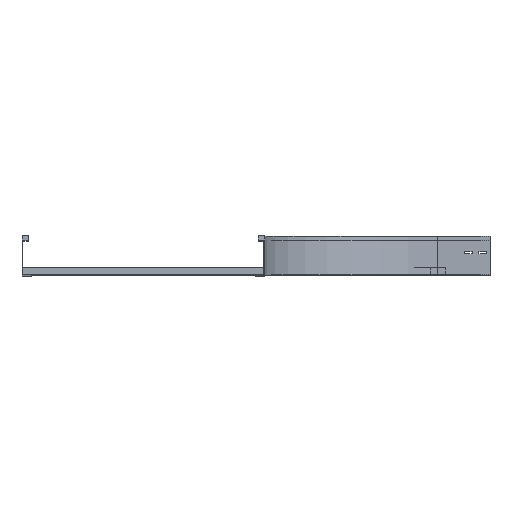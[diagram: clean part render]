
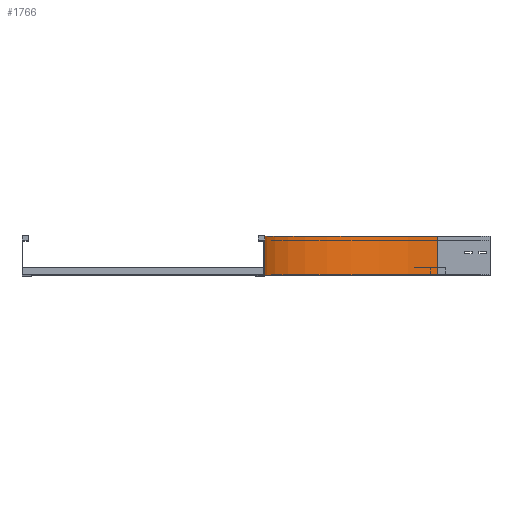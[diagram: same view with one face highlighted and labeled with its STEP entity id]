
A CAD part, top view. The second image highlights one B-rep face of the part: STEP entity #1766.
In plain terms, the highlighted cylindrical face has radius 500 mm (diameter 1000 mm), a partial arc.
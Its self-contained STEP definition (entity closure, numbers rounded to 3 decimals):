
#125 = EDGE_CURVE ( 'NONE', #2047, #2570, #2557, .T. ) ;
#154 = CARTESIAN_POINT ( 'NONE',  ( 500., 0., -650. ) ) ;
#165 = DIRECTION ( 'NONE',  ( -1., 0., 0. ) ) ;
#173 = DIRECTION ( 'NONE',  ( -1., 0., 0. ) ) ;
#389 = CARTESIAN_POINT ( 'NONE',  ( 500., 0., -650. ) ) ;
#421 = AXIS2_PLACEMENT_3D ( 'NONE', #1554, #3848, #173 ) ;
#464 = CARTESIAN_POINT ( 'NONE',  ( 500., 112.5, -150. ) ) ;
#486 = EDGE_LOOP ( 'NONE', ( #4112, #2186, #2109, #707 ) ) ;
#704 = CARTESIAN_POINT ( 'NONE',  ( 0., 0., -150. ) ) ;
#707 = ORIENTED_EDGE ( 'NONE', *, *, #1600, .T. ) ;
#846 = EDGE_CURVE ( 'NONE', #3812, #3043, #1913, .T. ) ;
#1127 = LINE ( 'NONE', #154, #2709 ) ;
#1492 = CARTESIAN_POINT ( 'NONE',  ( 500., 0., -150. ) ) ;
#1554 = CARTESIAN_POINT ( 'NONE',  ( 500., 0., -150. ) ) ;
#1556 = FACE_OUTER_BOUND ( 'NONE', #486, .T. ) ;
#1600 = EDGE_CURVE ( 'NONE', #2570, #3043, #1127, .T. ) ;
#1630 = CARTESIAN_POINT ( 'NONE',  ( 0., 0., -150. ) ) ;
#1754 = DIRECTION ( 'NONE',  ( 0., -1., 0. ) ) ;
#1766 = ADVANCED_FACE ( 'NONE', ( #1556 ), #3458, .F. ) ;
#1885 = DIRECTION ( 'NONE',  ( 0., 1., 0. ) ) ;
#1913 = CIRCLE ( 'NONE', #3052, 500. ) ;
#1993 = AXIS2_PLACEMENT_3D ( 'NONE', #1492, #3481, #2458 ) ;
#2047 = VERTEX_POINT ( 'NONE', #704 ) ;
#2109 = ORIENTED_EDGE ( 'NONE', *, *, #125, .T. ) ;
#2186 = ORIENTED_EDGE ( 'NONE', *, *, #3403, .F. ) ;
#2333 = VECTOR ( 'NONE', #1885, 1000. ) ;
#2458 = DIRECTION ( 'NONE',  ( 0., 0., -1. ) ) ;
#2557 = CIRCLE ( 'NONE', #421, 500. ) ;
#2570 = VERTEX_POINT ( 'NONE', #389 ) ;
#2671 = CARTESIAN_POINT ( 'NONE',  ( 500., 112.5, -650. ) ) ;
#2709 = VECTOR ( 'NONE', #2728, 1000. ) ;
#2728 = DIRECTION ( 'NONE',  ( 0., 1., 0. ) ) ;
#3028 = CARTESIAN_POINT ( 'NONE',  ( 0., 112.5, -150. ) ) ;
#3043 = VERTEX_POINT ( 'NONE', #2671 ) ;
#3052 = AXIS2_PLACEMENT_3D ( 'NONE', #464, #1754, #165 ) ;
#3403 = EDGE_CURVE ( 'NONE', #2047, #3812, #3900, .T. ) ;
#3458 = CYLINDRICAL_SURFACE ( 'NONE', #1993, 500. ) ;
#3481 = DIRECTION ( 'NONE',  ( 0., -1., 0. ) ) ;
#3812 = VERTEX_POINT ( 'NONE', #3028 ) ;
#3848 = DIRECTION ( 'NONE',  ( 0., -1., 0. ) ) ;
#3900 = LINE ( 'NONE', #1630, #2333 ) ;
#4112 = ORIENTED_EDGE ( 'NONE', *, *, #846, .F. ) ;
